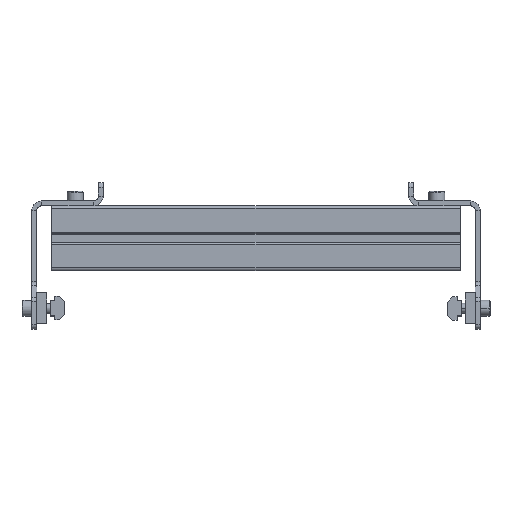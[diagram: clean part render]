
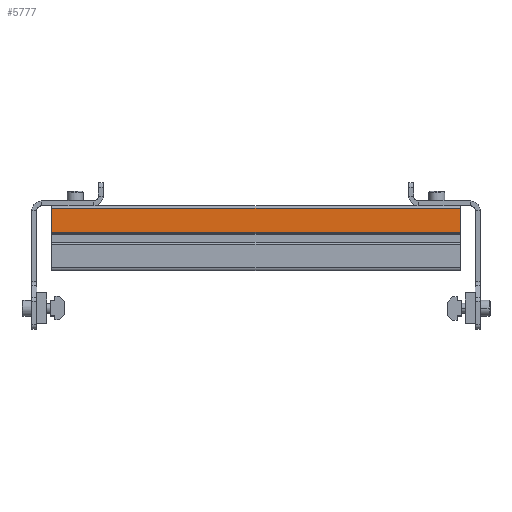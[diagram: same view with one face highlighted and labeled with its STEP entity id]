
A CAD part, top view. The second image highlights one B-rep face of the part: STEP entity #5777.
In plain terms, the highlighted planar face has unit normal (0, 0, 1) as drawn and (0, 1, 0) by its records, which use the part's own axes.
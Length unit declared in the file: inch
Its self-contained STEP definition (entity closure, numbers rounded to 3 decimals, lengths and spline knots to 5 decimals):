
#185 = DIRECTION ( 'NONE',  ( 0., 0., 1. ) ) ;
#197 = VERTEX_POINT ( 'NONE', #8242 ) ;
#398 = DIRECTION ( 'NONE',  ( 0., 0., 1. ) ) ;
#438 = EDGE_CURVE ( 'NONE', #7452, #7110, #7238, .T. ) ;
#442 = LINE ( 'NONE', #4266, #5248 ) ;
#872 = ORIENTED_EDGE ( 'NONE', *, *, #1499, .T. ) ;
#1249 = CARTESIAN_POINT ( 'NONE',  ( 0.7875, 0.441, 4.98 ) ) ;
#1374 = ORIENTED_EDGE ( 'NONE', *, *, #438, .F. ) ;
#1499 = EDGE_CURVE ( 'NONE', #7452, #197, #3418, .T. ) ;
#1683 = FACE_OUTER_BOUND ( 'NONE', #2332, .T. ) ;
#2332 = EDGE_LOOP ( 'NONE', ( #4164, #1374, #872, #3605 ) ) ;
#2409 = CARTESIAN_POINT ( 'NONE',  ( -0.14758, 0.441, 4.98 ) ) ;
#2960 = CARTESIAN_POINT ( 'NONE',  ( -0.7875, 0.441, 75. ) ) ;
#3038 = PLANE ( 'NONE',  #7575 ) ;
#3387 = DIRECTION ( 'NONE',  ( 1., 0., 0. ) ) ;
#3418 = LINE ( 'NONE', #5996, #5616 ) ;
#3605 = ORIENTED_EDGE ( 'NONE', *, *, #5949, .F. ) ;
#3813 = EDGE_CURVE ( 'NONE', #7110, #7075, #442, .T. ) ;
#3836 = DIRECTION ( 'NONE',  ( -1., 0., 0. ) ) ;
#3891 = CARTESIAN_POINT ( 'NONE',  ( 0.7875, 0.441, -4.98 ) ) ;
#4164 = ORIENTED_EDGE ( 'NONE', *, *, #3813, .F. ) ;
#4216 = CARTESIAN_POINT ( 'NONE',  ( -0.725, 0.441, -4.98 ) ) ;
#4249 = VECTOR ( 'NONE', #3387, 39.37008 ) ;
#4266 = CARTESIAN_POINT ( 'NONE',  ( -0.14758, 0.441, -75. ) ) ;
#4561 = LINE ( 'NONE', #1249, #6071 ) ;
#5026 = DIRECTION ( 'NONE',  ( 0., -1., 0. ) ) ;
#5248 = VECTOR ( 'NONE', #398, 39.37008 ) ;
#5541 = DIRECTION ( 'NONE',  ( 0., 0., -1. ) ) ;
#5616 = VECTOR ( 'NONE', #185, 39.37008 ) ;
#5709 = CARTESIAN_POINT ( 'NONE',  ( -0.14758, 0.441, -4.98 ) ) ;
#5777 = ADVANCED_FACE ( 'NONE', ( #1683 ), #3038, .F. ) ;
#5949 = EDGE_CURVE ( 'NONE', #7075, #197, #4561, .T. ) ;
#5996 = CARTESIAN_POINT ( 'NONE',  ( -0.725, 0.441, 75. ) ) ;
#6071 = VECTOR ( 'NONE', #3836, 39.37008 ) ;
#7075 = VERTEX_POINT ( 'NONE', #2409 ) ;
#7110 = VERTEX_POINT ( 'NONE', #5709 ) ;
#7238 = LINE ( 'NONE', #3891, #4249 ) ;
#7452 = VERTEX_POINT ( 'NONE', #4216 ) ;
#7575 = AXIS2_PLACEMENT_3D ( 'NONE', #2960, #5026, #5541 ) ;
#8242 = CARTESIAN_POINT ( 'NONE',  ( -0.725, 0.441, 4.98 ) ) ;
